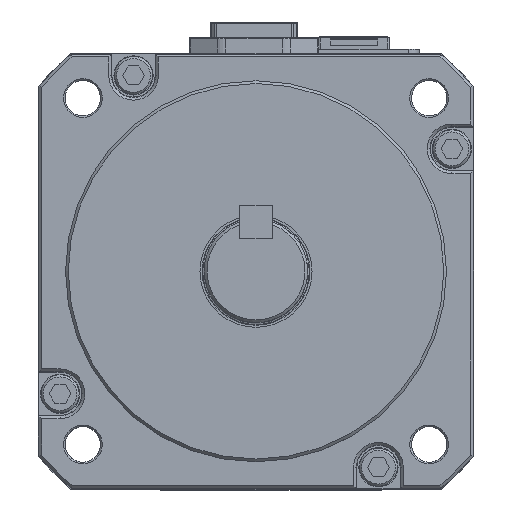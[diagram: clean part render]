
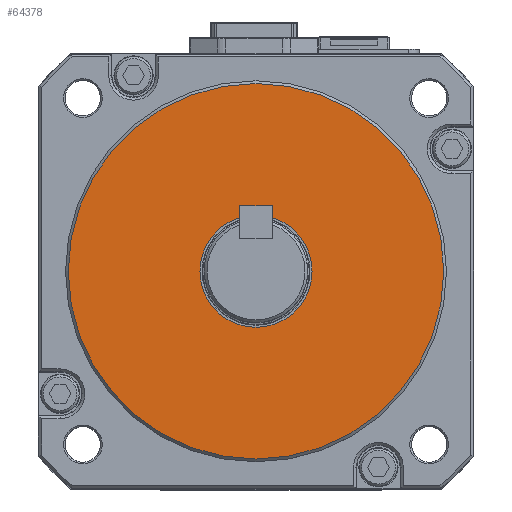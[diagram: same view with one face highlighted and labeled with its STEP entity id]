
A CAD part, top view. The second image highlights one B-rep face of the part: STEP entity #64378.
In plain terms, the highlighted planar face has unit normal (0, 0, 1).
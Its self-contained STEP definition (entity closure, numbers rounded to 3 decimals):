
#652 = FACE_BOUND ( 'NONE', #69555, .T. ) ;
#1162 = DIRECTION ( 'NONE',  ( 0., 0., 1. ) ) ;
#2052 = PLANE ( 'NONE',  #54316 ) ;
#5610 = DIRECTION ( 'NONE',  ( 1., 0., 0. ) ) ;
#10970 = DIRECTION ( 'NONE',  ( 0., 0., 1. ) ) ;
#12068 = DIRECTION ( 'NONE',  ( 1., 0., 0. ) ) ;
#15784 = EDGE_LOOP ( 'NONE', ( #36294 ) ) ;
#23986 = DIRECTION ( 'NONE',  ( 0., 0., 1. ) ) ;
#29396 = FACE_OUTER_BOUND ( 'NONE', #15784, .T. ) ;
#36294 = ORIENTED_EDGE ( 'NONE', *, *, #68695, .T. ) ;
#38706 = CARTESIAN_POINT ( 'NONE',  ( 0., 0., 13. ) ) ;
#40300 = CARTESIAN_POINT ( 'NONE',  ( 34.5, 0., 13. ) ) ;
#42176 = VERTEX_POINT ( 'NONE', #47591 ) ;
#44970 = VERTEX_POINT ( 'NONE', #40300 ) ;
#45335 = CARTESIAN_POINT ( 'NONE',  ( 0., 0., 13. ) ) ;
#47591 = CARTESIAN_POINT ( 'NONE',  ( 10.3, 0., 13. ) ) ;
#49088 = CIRCLE ( 'NONE', #68638, 10.3 ) ;
#52347 = EDGE_CURVE ( 'NONE', #42176, #42176, #49088, .T. ) ;
#54316 = AXIS2_PLACEMENT_3D ( 'NONE', #61353, #23986, #12068 ) ;
#55220 = CIRCLE ( 'NONE', #56344, 34.5 ) ;
#55733 = DIRECTION ( 'NONE',  ( 1., 0., 0. ) ) ;
#56344 = AXIS2_PLACEMENT_3D ( 'NONE', #38706, #10970, #5610 ) ;
#58738 = ORIENTED_EDGE ( 'NONE', *, *, #52347, .F. ) ;
#61353 = CARTESIAN_POINT ( 'NONE',  ( 0., 0., 13. ) ) ;
#64378 = ADVANCED_FACE ( 'NONE', ( #652, #29396 ), #2052, .T. ) ;
#68638 = AXIS2_PLACEMENT_3D ( 'NONE', #45335, #1162, #55733 ) ;
#68695 = EDGE_CURVE ( 'NONE', #44970, #44970, #55220, .T. ) ;
#69555 = EDGE_LOOP ( 'NONE', ( #58738 ) ) ;
